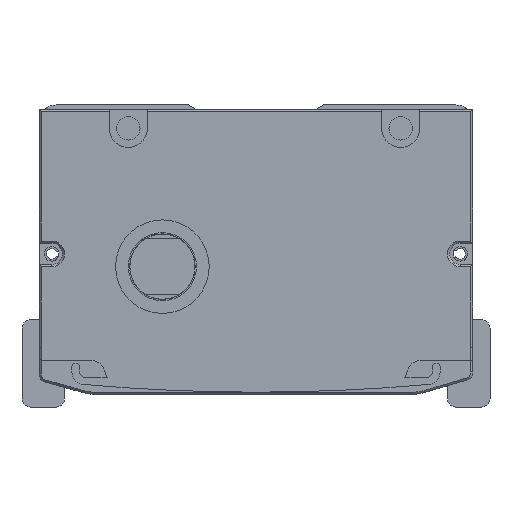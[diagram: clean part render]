
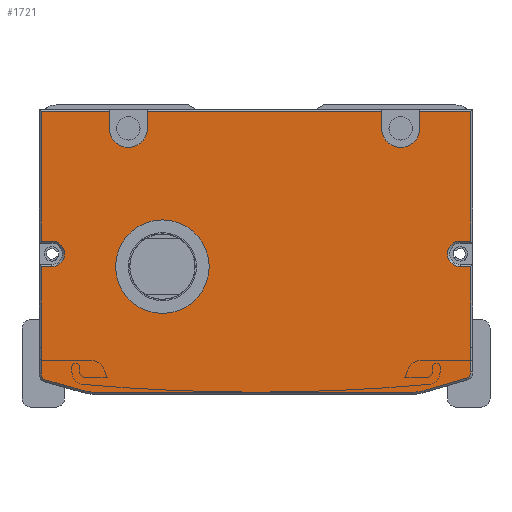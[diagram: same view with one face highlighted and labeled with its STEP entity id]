
A CAD part, front view. The second image highlights one B-rep face of the part: STEP entity #1721.
In plain terms, the highlighted planar face has unit normal (0, -1, 0).
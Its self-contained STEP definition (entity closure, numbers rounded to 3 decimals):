
#1018=FACE_BOUND('',#3599,.T.);
#1019=FACE_BOUND('',#3600,.T.);
#1721=ADVANCED_FACE('',(#1018,#1019),#2434,.F.);
#2434=PLANE('',#14626);
#3599=EDGE_LOOP('',(#6511));
#3600=EDGE_LOOP('',(#6512,#6513,#6514,#6515,#6516,#6517,#6518,#6519,#6520,
#6521,#6522,#6523,#6524,#6525,#6526,#6527,#6528,#6529,#6530,#6531,#6532,
#6533,#6534,#6535,#6536,#6537,#6538,#6539));
#4605=CIRCLE('',#14537,3.);
#4608=CIRCLE('',#14545,3.);
#4611=CIRCLE('',#14557,1.5);
#4613=CIRCLE('',#14561,9.5);
#4615=CIRCLE('',#14565,9.5);
#4617=CIRCLE('',#14569,1.5);
#4622=CIRCLE('',#14584,4.5);
#4626=CIRCLE('',#14590,4.5);
#4627=CIRCLE('',#14599,11.);
#6511=ORIENTED_EDGE('',*,*,#11044,.F.);
#6512=ORIENTED_EDGE('',*,*,#10938,.T.);
#6513=ORIENTED_EDGE('',*,*,#10834,.T.);
#6514=ORIENTED_EDGE('',*,*,#11025,.T.);
#6515=ORIENTED_EDGE('',*,*,#10838,.T.);
#6516=ORIENTED_EDGE('',*,*,#11073,.T.);
#6517=ORIENTED_EDGE('',*,*,#10844,.T.);
#6518=ORIENTED_EDGE('',*,*,#11021,.T.);
#6519=ORIENTED_EDGE('',*,*,#10848,.T.);
#6520=ORIENTED_EDGE('',*,*,#11074,.T.);
#6521=ORIENTED_EDGE('',*,*,#10942,.T.);
#6522=ORIENTED_EDGE('',*,*,#10948,.T.);
#6523=ORIENTED_EDGE('',*,*,#10951,.T.);
#6524=ORIENTED_EDGE('',*,*,#10954,.T.);
#6525=ORIENTED_EDGE('',*,*,#10956,.T.);
#6526=ORIENTED_EDGE('',*,*,#10986,.T.);
#6527=ORIENTED_EDGE('',*,*,#10990,.T.);
#6528=ORIENTED_EDGE('',*,*,#10993,.T.);
#6529=ORIENTED_EDGE('',*,*,#10996,.T.);
#6530=ORIENTED_EDGE('',*,*,#10999,.T.);
#6531=ORIENTED_EDGE('',*,*,#11002,.T.);
#6532=ORIENTED_EDGE('',*,*,#11005,.T.);
#6533=ORIENTED_EDGE('',*,*,#11007,.T.);
#6534=ORIENTED_EDGE('',*,*,#10984,.T.);
#6535=ORIENTED_EDGE('',*,*,#10974,.T.);
#6536=ORIENTED_EDGE('',*,*,#10971,.T.);
#6537=ORIENTED_EDGE('',*,*,#10968,.T.);
#6538=ORIENTED_EDGE('',*,*,#10965,.T.);
#6539=ORIENTED_EDGE('',*,*,#10960,.T.);
#9369=VERTEX_POINT('',#21525);
#9370=VERTEX_POINT('',#21527);
#9373=VERTEX_POINT('',#21534);
#9374=VERTEX_POINT('',#21536);
#9379=VERTEX_POINT('',#21547);
#9380=VERTEX_POINT('',#21549);
#9383=VERTEX_POINT('',#21556);
#9384=VERTEX_POINT('',#21558);
#9442=VERTEX_POINT('',#21744);
#9445=VERTEX_POINT('',#21752);
#9446=VERTEX_POINT('',#21753);
#9451=VERTEX_POINT('',#21764);
#9453=VERTEX_POINT('',#21770);
#9454=VERTEX_POINT('',#21775);
#9456=VERTEX_POINT('',#21781);
#9459=VERTEX_POINT('',#21789);
#9461=VERTEX_POINT('',#21795);
#9463=VERTEX_POINT('',#21801);
#9465=VERTEX_POINT('',#21807);
#9467=VERTEX_POINT('',#21813);
#9474=VERTEX_POINT('',#21837);
#9475=VERTEX_POINT('',#21841);
#9478=VERTEX_POINT('',#21848);
#9480=VERTEX_POINT('',#21854);
#9482=VERTEX_POINT('',#21860);
#9484=VERTEX_POINT('',#21866);
#9486=VERTEX_POINT('',#21872);
#9488=VERTEX_POINT('',#21878);
#9500=VERTEX_POINT('',#21951);
#10834=EDGE_CURVE('',#9370,#9369,#12491,.T.);
#10838=EDGE_CURVE('',#9374,#9373,#12495,.T.);
#10844=EDGE_CURVE('',#9380,#9379,#12501,.T.);
#10848=EDGE_CURVE('',#9384,#9383,#12505,.T.);
#10938=EDGE_CURVE('',#9442,#9370,#12578,.T.);
#10942=EDGE_CURVE('',#9445,#9446,#12582,.T.);
#10948=EDGE_CURVE('',#9446,#9451,#12588,.T.);
#10951=EDGE_CURVE('',#9451,#9453,#4605,.T.);
#10954=EDGE_CURVE('',#9453,#9454,#12592,.T.);
#10956=EDGE_CURVE('',#9454,#9456,#12594,.T.);
#10960=EDGE_CURVE('',#9459,#9442,#12598,.T.);
#10965=EDGE_CURVE('',#9461,#9459,#12603,.T.);
#10968=EDGE_CURVE('',#9463,#9461,#4608,.T.);
#10971=EDGE_CURVE('',#9465,#9463,#12607,.T.);
#10974=EDGE_CURVE('',#9467,#9465,#12610,.T.);
#10984=EDGE_CURVE('',#9474,#9467,#12618,.T.);
#10986=EDGE_CURVE('',#9456,#9475,#12620,.T.);
#10990=EDGE_CURVE('',#9475,#9478,#4611,.T.);
#10993=EDGE_CURVE('',#9478,#9480,#12625,.T.);
#10996=EDGE_CURVE('',#9480,#9482,#4613,.T.);
#10999=EDGE_CURVE('',#9482,#9484,#12629,.T.);
#11002=EDGE_CURVE('',#9484,#9486,#4615,.T.);
#11005=EDGE_CURVE('',#9486,#9488,#12633,.T.);
#11007=EDGE_CURVE('',#9488,#9474,#4617,.T.);
#11021=EDGE_CURVE('',#9379,#9384,#4622,.T.);
#11025=EDGE_CURVE('',#9369,#9374,#4626,.T.);
#11044=EDGE_CURVE('',#9500,#9500,#4627,.T.);
#11073=EDGE_CURVE('',#9373,#9380,#12684,.T.);
#11074=EDGE_CURVE('',#9383,#9445,#12685,.T.);
#12491=LINE('',#21526,#13431);
#12495=LINE('',#21535,#13435);
#12501=LINE('',#21548,#13441);
#12505=LINE('',#21557,#13445);
#12578=LINE('',#21743,#13518);
#12582=LINE('',#21751,#13522);
#12588=LINE('',#21765,#13528);
#12592=LINE('',#21777,#13532);
#12594=LINE('',#21780,#13534);
#12598=LINE('',#21788,#13538);
#12603=LINE('',#21798,#13543);
#12607=LINE('',#21810,#13547);
#12610=LINE('',#21816,#13550);
#12618=LINE('',#21836,#13558);
#12620=LINE('',#21840,#13560);
#12625=LINE('',#21855,#13565);
#12629=LINE('',#21867,#13569);
#12633=LINE('',#21879,#13573);
#12684=LINE('',#22013,#13624);
#12685=LINE('',#22014,#13625);
#13431=VECTOR('',#16759,1.);
#13435=VECTOR('',#16765,1.);
#13441=VECTOR('',#16773,1.);
#13445=VECTOR('',#16779,1.);
#13518=VECTOR('',#16946,1.);
#13522=VECTOR('',#16952,1.);
#13528=VECTOR('',#16960,1.);
#13532=VECTOR('',#16972,1.);
#13534=VECTOR('',#16976,1.);
#13538=VECTOR('',#16982,1.);
#13543=VECTOR('',#16989,1.);
#13547=VECTOR('',#17001,1.);
#13550=VECTOR('',#17006,1.);
#13558=VECTOR('',#17028,1.);
#13560=VECTOR('',#17032,1.);
#13565=VECTOR('',#17045,1.);
#13569=VECTOR('',#17057,1.);
#13573=VECTOR('',#17069,1.);
#13624=VECTOR('',#17236,1.);
#13625=VECTOR('',#17237,1.);
#14537=AXIS2_PLACEMENT_3D('',#21771,#16965,#16966);
#14545=AXIS2_PLACEMENT_3D('',#21804,#16995,#16996);
#14557=AXIS2_PLACEMENT_3D('',#21849,#17038,#17039);
#14561=AXIS2_PLACEMENT_3D('',#21861,#17050,#17051);
#14565=AXIS2_PLACEMENT_3D('',#21873,#17062,#17063);
#14569=AXIS2_PLACEMENT_3D('',#21882,#17073,#17074);
#14584=AXIS2_PLACEMENT_3D('',#21908,#17112,#17113);
#14590=AXIS2_PLACEMENT_3D('',#21916,#17124,#17125);
#14599=AXIS2_PLACEMENT_3D('',#21950,#17160,#17161);
#14626=AXIS2_PLACEMENT_3D('',#22015,#17238,#17239);
#16759=DIRECTION('',(0.,0.,-1.));
#16765=DIRECTION('',(0.,0.,1.));
#16773=DIRECTION('',(0.,0.,-1.));
#16779=DIRECTION('',(0.,0.,1.));
#16946=DIRECTION('',(-1.,0.,0.));
#16952=DIRECTION('',(0.,0.,-1.));
#16960=DIRECTION('',(1.,0.,0.));
#16965=DIRECTION('',(0.,1.,0.));
#16966=DIRECTION('',(0.,0.,1.));
#16972=DIRECTION('',(-1.,0.,0.));
#16976=DIRECTION('',(0.,0.,-1.));
#16982=DIRECTION('',(0.,0.,1.));
#16989=DIRECTION('',(1.,0.,0.));
#16995=DIRECTION('',(0.,1.,0.));
#16996=DIRECTION('',(0.,0.,1.));
#17001=DIRECTION('',(-1.,0.,0.));
#17006=DIRECTION('',(0.,0.,1.));
#17028=DIRECTION('',(0.,0.,1.));
#17032=DIRECTION('',(0.,0.,-1.));
#17038=DIRECTION('',(0.,-1.,0.));
#17039=DIRECTION('',(0.,0.,1.));
#17045=DIRECTION('',(0.963,0.,-0.269));
#17050=DIRECTION('',(0.,-1.,0.));
#17051=DIRECTION('',(0.,0.,1.));
#17057=DIRECTION('',(1.,0.,0.));
#17062=DIRECTION('',(0.,-1.,0.));
#17063=DIRECTION('',(0.,0.,1.));
#17069=DIRECTION('',(0.959,0.,0.282));
#17073=DIRECTION('',(0.,-1.,0.));
#17074=DIRECTION('',(0.,0.,1.));
#17112=DIRECTION('',(0.,1.,0.));
#17113=DIRECTION('',(0.,0.,1.));
#17124=DIRECTION('',(0.,1.,0.));
#17125=DIRECTION('',(0.,0.,1.));
#17160=DIRECTION('',(0.,-1.,0.));
#17161=DIRECTION('',(0.,0.,1.));
#17236=DIRECTION('',(-1.,0.,0.));
#17237=DIRECTION('',(-1.,0.,0.));
#17238=DIRECTION('',(0.,1.,0.));
#17239=DIRECTION('',(1.,0.,0.));
#21525=CARTESIAN_POINT('',(35.308,-257.5,-5.5));
#21526=CARTESIAN_POINT('',(35.308,-257.5,-1.));
#21527=CARTESIAN_POINT('',(35.308,-257.5,-1.5));
#21534=CARTESIAN_POINT('',(26.308,-257.5,-1.5));
#21535=CARTESIAN_POINT('',(26.308,-257.5,-1.));
#21536=CARTESIAN_POINT('',(26.308,-257.5,-5.5));
#21547=CARTESIAN_POINT('',(-28.692,-257.5,-5.5));
#21548=CARTESIAN_POINT('',(-28.692,-257.5,-1.));
#21549=CARTESIAN_POINT('',(-28.692,-257.5,-1.5));
#21556=CARTESIAN_POINT('',(-37.692,-257.5,-1.5));
#21557=CARTESIAN_POINT('',(-37.692,-257.5,-1.));
#21558=CARTESIAN_POINT('',(-37.692,-257.5,-5.5));
#21743=CARTESIAN_POINT('',(-53.692,-257.5,-1.5));
#21744=CARTESIAN_POINT('',(47.308,-257.5,-1.5));
#21751=CARTESIAN_POINT('',(-53.692,-257.5,-32.5));
#21752=CARTESIAN_POINT('',(-53.692,-257.5,-1.5));
#21753=CARTESIAN_POINT('',(-53.692,-257.5,-32.));
#21764=CARTESIAN_POINT('',(-51.192,-257.5,-32.));
#21765=CARTESIAN_POINT('',(-3.192,-257.5,-32.));
#21770=CARTESIAN_POINT('',(-51.192,-257.5,-38.));
#21771=CARTESIAN_POINT('',(-51.192,-257.5,-35.));
#21775=CARTESIAN_POINT('',(-53.692,-257.5,-38.));
#21777=CARTESIAN_POINT('',(-3.192,-257.5,-38.));
#21780=CARTESIAN_POINT('',(-53.692,-257.5,-57.));
#21781=CARTESIAN_POINT('',(-53.692,-257.5,-57.));
#21788=CARTESIAN_POINT('',(47.308,-257.5,-1.5));
#21789=CARTESIAN_POINT('',(47.308,-257.5,-32.));
#21795=CARTESIAN_POINT('',(44.808,-257.5,-32.));
#21798=CARTESIAN_POINT('',(-3.192,-257.5,-32.));
#21801=CARTESIAN_POINT('',(44.808,-257.5,-38.));
#21804=CARTESIAN_POINT('',(44.808,-257.5,-35.));
#21807=CARTESIAN_POINT('',(47.308,-257.5,-38.));
#21810=CARTESIAN_POINT('',(-3.192,-257.5,-38.));
#21813=CARTESIAN_POINT('',(47.308,-257.5,-57.));
#21816=CARTESIAN_POINT('',(47.308,-257.5,-37.5));
#21836=CARTESIAN_POINT('',(47.308,-257.5,-37.5));
#21837=CARTESIAN_POINT('',(47.308,-257.5,-62.758));
#21840=CARTESIAN_POINT('',(-53.692,-257.5,-59.712));
#21841=CARTESIAN_POINT('',(-53.692,-257.5,-63.212));
#21848=CARTESIAN_POINT('',(-52.596,-257.5,-64.657));
#21849=CARTESIAN_POINT('',(-52.192,-257.5,-63.212));
#21854=CARTESIAN_POINT('',(-43.674,-257.5,-67.15));
#21855=CARTESIAN_POINT('',(-43.674,-257.5,-67.15));
#21860=CARTESIAN_POINT('',(-41.118,-257.5,-67.5));
#21861=CARTESIAN_POINT('',(-41.118,-257.5,-58.));
#21866=CARTESIAN_POINT('',(33.631,-257.5,-67.5));
#21867=CARTESIAN_POINT('',(33.631,-257.5,-67.5));
#21872=CARTESIAN_POINT('',(36.312,-257.5,-67.114));
#21873=CARTESIAN_POINT('',(33.631,-257.5,-58.));
#21878=CARTESIAN_POINT('',(46.231,-257.5,-64.197));
#21879=CARTESIAN_POINT('',(46.231,-257.5,-64.197));
#21882=CARTESIAN_POINT('',(45.808,-257.5,-62.758));
#21908=CARTESIAN_POINT('',(-33.192,-257.5,-5.5));
#21916=CARTESIAN_POINT('',(30.808,-257.5,-5.5));
#21950=CARTESIAN_POINT('',(-25.192,-257.5,-38.));
#21951=CARTESIAN_POINT('',(-25.192,-257.5,-27.));
#22013=CARTESIAN_POINT('',(-53.692,-257.5,-1.5));
#22014=CARTESIAN_POINT('',(-53.692,-257.5,-1.5));
#22015=CARTESIAN_POINT('',(-3.192,-257.5,-1.));
